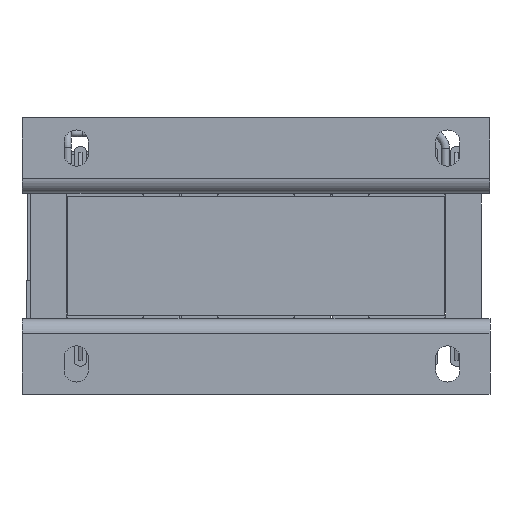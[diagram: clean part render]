
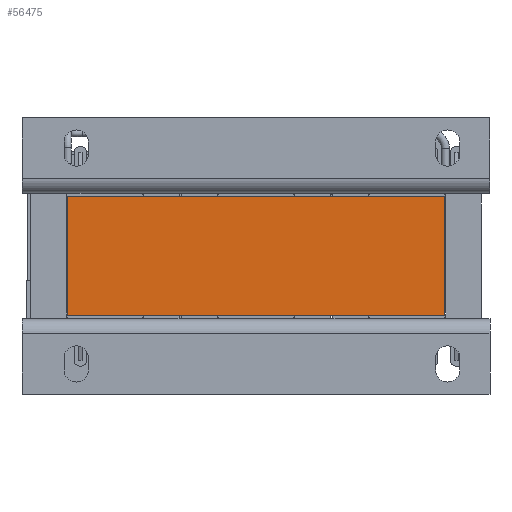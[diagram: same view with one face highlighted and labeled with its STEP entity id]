
A CAD part, front view. The second image highlights one B-rep face of the part: STEP entity #56475.
In plain terms, the highlighted planar face has unit normal (0, -1, 0).
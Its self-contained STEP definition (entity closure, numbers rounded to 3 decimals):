
#1612=CARTESIAN_POINT('',(-24.031,-84.924,0.05));
#1613=VERTEX_POINT('',#1612);
#1620=CARTESIAN_POINT('',(-24.031,-84.924,39.55));
#1621=VERTEX_POINT('',#1620);
#1622=CARTESIAN_POINT('',(-24.031,-84.924,39.55));
#1623=DIRECTION('',(0.0,0.0,-1.0));
#1624=VECTOR('',#1623,39.5);
#1625=LINE('',#1622,#1624);
#1626=EDGE_CURVE('',#1621,#1613,#1625,.T.);
#56366=CARTESIAN_POINT('',(100.969,-84.924,39.55));
#56367=VERTEX_POINT('',#56366);
#56368=CARTESIAN_POINT('',(-24.031,-84.924,39.55));
#56369=DIRECTION('',(1.0,0.0,0.0));
#56370=VECTOR('',#56369,125.);
#56371=LINE('',#56368,#56370);
#56372=EDGE_CURVE('',#1621,#56367,#56371,.T.);
#56452=CARTESIAN_POINT('',(-24.031,-84.924,39.55));
#56453=DIRECTION('',(0.0,-1.0,0.0));
#56454=DIRECTION('',(0.0,0.0,-1.0));
#56455=AXIS2_PLACEMENT_3D('',#56452,#56453,#56454);
#56456=PLANE('',#56455);
#56457=CARTESIAN_POINT('',(100.969,-84.924,0.05));
#56458=VERTEX_POINT('',#56457);
#56459=CARTESIAN_POINT('',(-24.031,-84.924,0.05));
#56460=DIRECTION('',(1.0,0.0,0.0));
#56461=VECTOR('',#56460,125.0);
#56462=LINE('',#56459,#56461);
#56463=EDGE_CURVE('',#1613,#56458,#56462,.T.);
#56464=ORIENTED_EDGE('',*,*,#56463,.T.);
#56465=CARTESIAN_POINT('',(100.969,-84.924,39.55));
#56466=DIRECTION('',(0.0,0.0,-1.0));
#56467=VECTOR('',#56466,39.5);
#56468=LINE('',#56465,#56467);
#56469=EDGE_CURVE('',#56367,#56458,#56468,.T.);
#56470=ORIENTED_EDGE('',*,*,#56469,.F.);
#56471=ORIENTED_EDGE('',*,*,#56372,.F.);
#56472=ORIENTED_EDGE('',*,*,#1626,.T.);
#56473=EDGE_LOOP('',(#56464,#56470,#56471,#56472));
#56474=FACE_OUTER_BOUND('',#56473,.T.);
#56475=ADVANCED_FACE('',(#56474),#56456,.T.);
